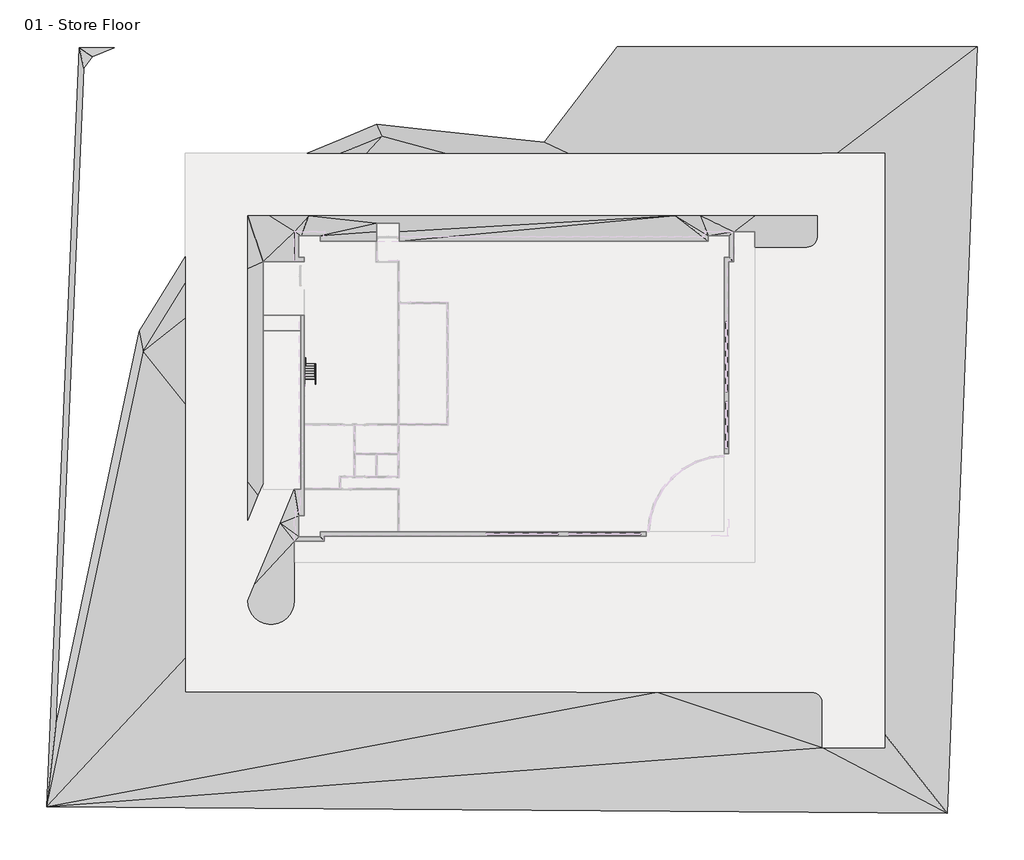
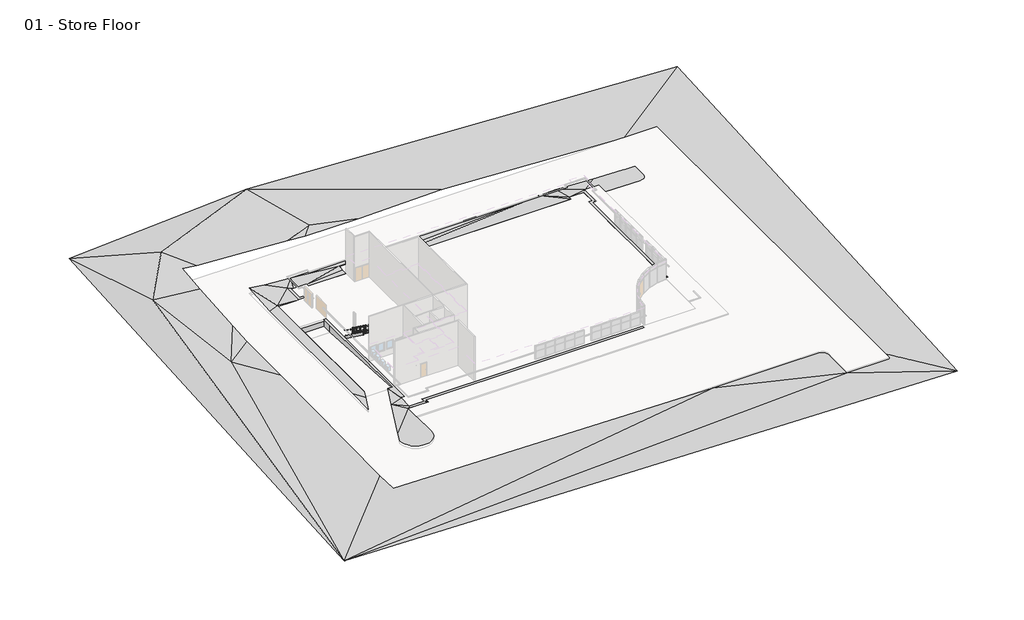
# One storey, part 4 of 4: 8 proxies, 2 members, 2 railings, 1 stair flight.
"""IFC4 building model written with IfcOpenShell, lengths in millimetres."""

from ifc_helpers import new_model, si_unit, point, frame, frame_2d, origin, place, context, project, spatial, polyline, circle_curve, ellipse_curve, trimmed, segment, composite_curve, outline, extrude, triangles, transform, mapped, element, save
from ifc_brep_helpers import plane_surface, cylinder_surface, advanced_brep
from components import m_support_metal_circular_m_support_metal_circular_cf76aa7a, stair_flight_50mm_tread_13mm_riser_1d24b435

model = new_model("IFC4")

# Units and contexts
model_context = context("Model", 3, world=origin())
ifc_project = project(units=[si_unit("LENGTHUNIT", "METRE", prefix="MILLI")], contexts=[model_context])

# Site, building, storey
site = spatial("IfcSite", under=ifc_project)
building = spatial("IfcBuilding", under=site)
storey = spatial("IfcBuildingStorey", under=building, Name="01 - Store Floor", Elevation=0.0)

# Proxies
placement = place(None, origin())
element("IfcBuildingElementProxy", 1, Name="Building Element Proxy", at=placement, inside=storey, context=model_context, shape_type="Tessellation", body=[
    triangles([(-43566.3082031, 32462.523175, 1000.0000076), (-46716.2229126, -40393.2088623, 1000.0000076), (39777.6557373, -41004.7343262, -500.0000038), (42663.8237549, 32601.6611938, -500.0000038), (-18392.8342987, 32565.4122437, 2500.0000191), (33780.5264465, -34706.930365, -384.9401665), (27780.5275635, -34706.930365, -383.6411179), (27780.5275635, -30406.9323669, -305.9673343), (27731.5840393, -30097.9140198, -300.3747432), (27589.5438721, -29819.144989, -295.30841), (27368.3131897, -29597.9143066, -291.2642528), (27089.5441589, -29455.8741394, -288.6381413), (26780.5281372, -29406.9306152, -287.6871456), (11915.4122314, -29406.9306152, -284.4687919), (-33419.4717407, -29406.9306152, 509.2660807), (-33419.4717407, -26152.3013672, 432.8553014), (-33419.4717407, -1684.9523849, 719.9349804), (-33419.4717407, 6518.3399185, 720.4169277), (-33419.4717407, 9885.0384888, 1000.0000076), (-33419.4717407, 18055.2002563, 1642.8014694), (-33419.4717407, 22343.0687622, 2044.0540123), (-31378.0544861, 22343.0687622, 1780.8529266), (-25462.4923096, 22343.0687622, 1430.5636974), (-18450.5005463, 22343.0687622, 1000.0000076), (-16016.6502686, 22343.0687622, 817.2966974), (-8441.5899673, 22343.0687622, 817.7947048), (3306.7528107, 22343.0687622, 1051.3779762), (29175.0005859, 22343.0687622, -220.2242939), (33780.5264465, 22343.0687622, -317.0081938), (33780.5264465, 15117.0051819, -319.6062183), (33780.5264465, -33407.95849, -361.4759374), (26280.5260986, 13343.0692749, -162.6334778), (26589.5444458, 13392.0116364, -169.1097904), (26868.3134766, 13534.0518036, -174.9169577), (27089.5441589, 13755.2836487, -179.4865371), (27231.5843262, 14034.0515167, -182.3712447), (27280.5278503, 14343.0687012, -183.2886669), (27280.5278503, 16343.0687164, -182.5695974), (21285.7193481, 16343.0687164, -56.5903049), (16043.3172455, 16343.0687164, 201.1098175), (13662.4242004, 16343.0687164, 153.7723545), (-21518.9074402, 16343.0687164, 151.4593325), (-25294.1537476, 16343.0687164, 434.8579408), (-27419.4728577, 16343.0687164, 722.9589964), (-27419.4728577, 11264.0287354, 301.1768745), (-27419.4728577, -9240.2545898, 299.9721152), (-27419.4728577, -12884.300766, 257.215895), (-26417.4247192, -10502.0496643, 229.83499), (-25919.4737183, -9318.2271561, 195.0878195), (-25919.4737183, 5316.5097885, 195.9477053), (-25919.4737183, 6816.5095093, 196.0358358), (-25919.4737183, 11955.0691132, 196.3377614), (-22896.9000732, 11955.0691132, -14.9999997), (-21990.4716797, 11955.0691132, -14.9999997), (-21990.4716797, 12384.0685089, -14.9999997), (-22490.4737183, 12384.0685089, -14.9999997), (-22490.4737183, 14414.0690186, -14.9999997), (-22283.239856, 14414.0690186, -14.9999997), (-20460.4720459, 14414.0690186, -14.9999997), (-20460.4720459, 13914.0681427, -14.9999997), (-15030.2232697, 13914.0681427, -14.9999997), (-15030.2232697, 14838.4070709, -14.9999997), (-15030.2232697, 15634.0689697, 73.2489038), (-12830.2226715, 15634.0689697, 73.3935443), (-12830.2226715, 14837.1024994, -14.9999997), (-12830.2226715, 13914.0681427, -14.9999997), (16821.5267212, 13914.0681427, -14.9999997), (16821.5267212, 14414.0690186, -14.9999997), (18851.5272308, 14414.0690186, -14.9999997), (18851.5272308, 12384.0685089, -14.9999997), (18351.5275177, 12384.0685089, -14.9999997), (18351.5275177, -6481.9310944, -14.9999997), (18780.5269135, -6481.9310944, -14.9999997), (18780.5269135, 11955.0691132, -14.9999997), (19231.5447327, 11955.0691132, -14.9999997), (19280.5277893, 11955.0691132, -16.029345), (19280.5277893, 14818.0687775, -14.9999997), (19280.5277893, 14843.0684143, -14.0659235), (19313.3990387, 14843.0684143, -15.6818087), (21280.5266418, 14843.0684143, -57.0204839), (21280.5266418, 13343.0692749, -57.559786), (-22919.473114, -16906.9308105, 31.9598247), (-22919.473114, -14906.7308075, -14.9999997), (-20031.4726501, -14906.7308075, -15.6252635), (-20031.4726501, -14872.1166412, -14.9999997), (-20031.4726501, -14406.9310822, -14.9999997), (10855.5269257, -14406.9310822, -14.9999997), (10855.5269257, -13977.9316864, -14.9999997), (-20460.4720459, -13977.9316864, -14.9999997), (-20460.4720459, -14477.7314117, -14.9999997), (-22490.4737183, -14477.7314117, -14.9999997), (-22490.4737183, -12447.7309021, -14.9999997), (-21990.4716797, -12447.7309021, -14.9999997), (-21990.4716797, 6816.5095093, -14.9999997), (-22319.4725281, 6816.5095093, -14.9999997), (-22319.4725281, 5316.5097885, -14.9999997), (-22319.4725281, -9923.4907928, -14.9999997), (-22915.2849976, -9923.4907928, -14.9999997), (-22919.473114, -9923.4907928, -14.7072021), (-24289.7755188, -13181.2233398, 80.9126756), (-26734.0263245, -18992.1430664, 147.701713), (-27419.4728577, -20621.7110413, 197.9609908), (-27370.3037659, -21089.5127197, 208.0829929), (-27224.9498474, -21536.8691345, 216.040901), (-26989.7618774, -21944.2279907, 221.4869712), (-26675.0159729, -22293.7880493, 224.1831366), (-26294.471759, -22570.2688477, 224.0115809), (-25864.7607788, -22761.5897278, 220.9798074), (-25404.6609558, -22859.386084, 215.2203116), (-24934.2826904, -22859.386084, 206.9848041), (-24474.1851929, -22761.5897278, 196.6332376), (-24044.4718872, -22570.2688477, 184.6180007), (-23663.9299988, -22293.7880493, 171.4642251), (-23349.1840942, -21944.2279907, 157.746803), (-23113.9961243, -21536.8691345, 144.0652526), (-22968.6398804, -21089.5127197, 131.0175116), (-22919.473114, -20621.7110413, 119.1738304), (-34204.7703186, 26133.4374023, 2500.0000191), (-40234.7441162, 17825.4724182, 2500.0000191), (-14506.8505646, 23989.4473389, 1000.0000076), (-37420.7554138, 3353.5319321, 1000.0000076), (-22894.4723145, 14843.0684143, -14.9999997)], [[2, 15, 16], [121, 2, 16], [102, 108, 109], [102, 107, 108], [109, 110, 102], [103, 106, 107], [106, 103, 104], [102, 103, 107], [101, 102, 117], [104, 105, 106], [111, 102, 110], [46, 47, 48], [112, 113, 102], [113, 114, 102], [116, 102, 115], [117, 102, 116], [102, 114, 115], [117, 82, 101], [83, 100, 101], [92, 99, 100], [100, 83, 91], [101, 82, 83], [92, 98, 99], [97, 92, 93], [92, 97, 98], [84, 91, 83], [92, 100, 91], [111, 112, 102], [14, 15, 2], [121, 18, 19], [18, 121, 17], [121, 19, 119], [45, 51, 52], [49, 50, 46], [51, 45, 50], [121, 16, 17], [119, 21, 118], [21, 119, 20], [5, 1, 118], [118, 1, 119], [21, 22, 118], [1, 2, 119], [44, 52, 43], [20, 119, 19], [52, 44, 45], [118, 22, 23], [119, 2, 121], [45, 46, 50], [122, 52, 53], [97, 94, 96], [93, 94, 97], [94, 95, 96], [46, 48, 49], [53, 54, 56], [42, 43, 122], [57, 122, 53], [122, 57, 58], [43, 52, 122], [55, 56, 54], [58, 42, 122], [59, 42, 58], [56, 57, 53], [5, 118, 23], [89, 90, 86], [91, 84, 90], [85, 90, 84], [86, 88, 89], [85, 86, 90], [88, 86, 87], [74, 71, 72], [72, 73, 74], [74, 75, 70], [76, 70, 75], [74, 70, 71], [10, 8, 9], [7, 8, 13], [6, 3, 31], [3, 6, 7], [7, 14, 2], [8, 10, 11], [80, 81, 32], [33, 37, 32], [11, 12, 13], [37, 33, 34], [13, 8, 11], [35, 37, 34], [31, 3, 30], [7, 13, 14], [2, 3, 7], [76, 77, 70], [62, 59, 61], [61, 59, 60], [63, 59, 62], [64, 65, 41], [66, 41, 65], [41, 42, 64], [5, 23, 24], [120, 5, 24], [24, 25, 120], [63, 64, 42], [26, 27, 5], [26, 120, 25], [5, 120, 26], [5, 27, 4], [42, 59, 63], [68, 40, 41], [68, 69, 78], [78, 69, 77], [78, 79, 39], [38, 32, 37], [69, 70, 77], [37, 35, 36], [68, 78, 40], [78, 39, 40], [39, 79, 80], [39, 80, 32], [39, 32, 38], [29, 4, 28], [4, 29, 30], [30, 3, 4], [4, 27, 28], [68, 41, 67], [67, 41, 66]], closed=False),
])
element("IfcBuildingElementProxy", 2, Name="Building Element Proxy", at=placement, inside=storey, context=model_context, shape_type="Tessellation", body=[
    triangles([(10855.5269257, -13977.9316864, -304.9595106), (10855.5269257, -13977.9316864, -14.9999997), (-20460.4720459, -13977.9316864, -304.9595106), (-20460.4720459, -13977.9316864, -14.9999997), (-20460.4720459, -14477.7314117, -304.9595106), (-20460.4720459, -14477.7314117, -14.9999997), (-22490.4737183, -14477.7314117, -304.9595106), (-22490.4737183, -14477.7314117, -14.9999997), (-22490.4737183, -12447.7309021, -304.9595106), (-22490.4737183, -12447.7309021, -14.9999997), (-21990.4716797, -12447.7309021, -304.9595106), (-21990.4716797, -12447.7309021, -14.9999997), (-21990.4716797, 6816.5095093, -304.9595106), (-21990.4716797, 6816.5095093, -14.9999997), (-22319.4725281, 6816.5095093, -304.9595106), (-22319.4725281, 6816.5095093, -14.9999997)], [[1, 4, 2], [1, 3, 4], [3, 6, 4], [3, 5, 6], [5, 8, 6], [5, 7, 8], [7, 10, 8], [7, 9, 10], [9, 12, 10], [9, 11, 12], [11, 14, 12], [11, 13, 14], [13, 16, 14], [13, 15, 16]], closed=False),
    triangles([(-25919.4737183, 6816.5095093, -304.9595106), (-25919.4737183, 6816.5095093, 196.0358358), (-25919.4737183, 11955.0691132, -304.9595106), (-25919.4737183, 11955.0691132, 196.3377614), (-22896.9000732, 11955.0691132, -304.9595106), (-22896.9000732, 11955.0691132, -14.9999997), (-21990.4716797, 11955.0691132, -304.9595106), (-21990.4716797, 11955.0691132, -14.9999997), (-21990.4716797, 12384.0685089, -304.9595106), (-21990.4716797, 12384.0685089, -14.9999997), (-22490.4737183, 12384.0685089, -304.9595106), (-22490.4737183, 12384.0685089, -14.9999997), (-22490.4737183, 14414.0690186, -304.9595106), (-22490.4737183, 14414.0690186, -14.9999997), (-22283.239856, 14414.0690186, -304.9595106), (-22283.239856, 14414.0690186, -14.9999997), (-20460.4720459, 14414.0690186, -304.9595106), (-20460.4720459, 14414.0690186, -14.9999997), (-20460.4720459, 13914.0681427, -304.9595106), (-20460.4720459, 13914.0681427, -14.9999997), (-15030.2232697, 13914.0681427, -304.9595106), (-15030.2232697, 13914.0681427, -14.9999997), (-15030.2232697, 14838.4070709, -304.9595106), (-15030.2232697, 14838.4070709, -14.9999997), (-15030.2232697, 15634.0689697, -304.9595106), (-15030.2232697, 15634.0689697, 73.2489038), (-12830.2226715, 15634.0689697, -304.9595106), (-12830.2226715, 15634.0689697, 73.3935443), (-12830.2226715, 14837.1024994, -304.9595106), (-12830.2226715, 14837.1024994, -14.9999997), (-12830.2226715, 13914.0681427, -304.9595106), (-12830.2226715, 13914.0681427, -14.9999997), (16821.5267212, 13914.0681427, -304.9595106), (16821.5267212, 13914.0681427, -14.9999997), (16821.5267212, 14414.0690186, -304.9595106), (16821.5267212, 14414.0690186, -14.9999997), (18851.5272308, 14414.0690186, -304.9595106), (18851.5272308, 14414.0690186, -14.9999997), (18851.5272308, 12384.0685089, -304.9595106), (18851.5272308, 12384.0685089, -14.9999997), (18351.5275177, 12384.0685089, -304.9595106), (18351.5275177, 12384.0685089, -14.9999997), (18351.5275177, -6481.9310944, -304.9595106), (18351.5275177, -6481.9310944, -14.9999997)], [[1, 4, 2], [1, 3, 4], [3, 6, 4], [3, 5, 6], [5, 8, 6], [5, 7, 8], [7, 10, 8], [7, 9, 10], [9, 12, 10], [9, 11, 12], [11, 14, 12], [11, 13, 14], [13, 16, 14], [13, 15, 16], [15, 18, 16], [15, 17, 18], [17, 20, 18], [17, 19, 20], [19, 22, 20], [19, 21, 22], [21, 24, 22], [21, 23, 24], [23, 26, 24], [23, 25, 26], [25, 28, 26], [25, 27, 28], [27, 30, 28], [27, 29, 30], [29, 32, 30], [29, 31, 32], [31, 34, 32], [31, 33, 34], [33, 36, 34], [33, 35, 36], [35, 38, 36], [35, 37, 38], [37, 40, 38], [37, 39, 40], [39, 42, 40], [39, 41, 42], [41, 44, 42], [41, 43, 44]], closed=False),
    triangles([(-15030.2232697, 13914.0681427, -304.9595106), (-20460.4720459, 13914.0681427, -304.9595106), (-20460.4720459, 14414.0690186, -304.9595106), (-22490.4737183, 14414.0690186, -304.9595106), (-22490.4737183, 12384.0685089, -304.9595106), (-21990.4716797, 12384.0685089, -304.9595106), (-21990.4716797, 11955.0691132, -304.9595106), (-25919.4737183, 11955.0691132, -304.9595106), (-25919.4737183, 6816.5095093, -304.9595106), (-21990.4716797, 6816.5095093, -304.9595106), (-21990.4716797, -12447.7309021, -304.9595106), (-22490.4737183, -12447.7309021, -304.9595106), (-22490.4737183, -14477.7314117, -304.9595106), (-20460.4720459, -14477.7314117, -304.9595106), (-20460.4720459, -13977.9316864, -304.9595106), (10855.5269257, -13977.9316864, -304.9595106), (18351.5275177, -13977.9316864, -304.9595106), (18351.5275177, -6481.9310944, -304.9595106), (18351.5275177, 12384.0685089, -304.9595106), (18851.5272308, 12384.0685089, -304.9595106), (18851.5272308, 14414.0690186, -304.9595106), (16821.5267212, 14414.0690186, -304.9595106), (16821.5267212, 13914.0681427, -304.9595106), (-12830.2226715, 13914.0681427, -304.9595106), (-12830.2226715, 15634.0689697, -304.9595106), (-15030.2232697, 15634.0689697, -304.9595106)], [[13, 11, 12], [11, 13, 15], [11, 15, 10], [15, 13, 14], [1, 7, 10], [7, 8, 9], [2, 4, 6], [6, 4, 5], [3, 4, 2], [2, 6, 7], [9, 10, 7], [10, 15, 24], [24, 16, 18], [24, 1, 10], [18, 16, 17], [23, 24, 18], [23, 18, 19], [21, 19, 20], [2, 7, 1], [26, 1, 25], [22, 23, 21], [23, 19, 21], [25, 1, 24], [15, 16, 24]], closed=False),
])
element("IfcBuildingElementProxy", 3, Name="Building Element Proxy", at=placement, inside=storey, context=model_context, shape_type="Tessellation", body=[
    triangles([(10855.5269257, -13977.9316864, -304.9595106), (10855.5269257, -13977.9316864, -14.9999997), (10855.5269257, -14406.9310822, -304.9595106), (10855.5269257, -14406.9310822, -14.9999997), (-20031.4726501, -14406.9310822, -304.9595106), (-20031.4726501, -14406.9310822, -14.9999997), (-20031.4726501, -14872.1166412, -304.9595106), (-20031.4726501, -14872.1166412, -14.9999997), (-20031.4726501, -14906.7308075, -304.9595106), (-20031.4726501, -14906.7308075, -15.6252635), (-22919.473114, -14906.7308075, -304.9595106), (-22919.473114, -14906.7308075, -14.9999997), (-22919.473114, -16906.9308105, -304.9595106), (-22919.473114, -16906.9308105, 31.9598247)], [[1, 4, 2], [1, 3, 4], [3, 6, 4], [3, 5, 6], [5, 8, 6], [5, 7, 8], [7, 10, 8], [7, 9, 10], [9, 12, 10], [9, 11, 12], [11, 14, 12], [11, 13, 14]], closed=False),
    triangles([(18351.5275177, -6481.9310944, -304.9595106), (18351.5275177, -6481.9310944, -14.9999997), (18780.5269135, -6481.9310944, -304.9595106), (18780.5269135, -6481.9310944, -14.9999997), (18780.5269135, 11955.0691132, -304.9595106), (18780.5269135, 11955.0691132, -14.9999997), (19231.5447327, 11955.0691132, -304.9595106), (19231.5447327, 11955.0691132, -14.9999997), (19280.5277893, 11955.0691132, -304.9595106), (19280.5277893, 11955.0691132, -16.029345), (19280.5277893, 14818.0687775, -304.9595106), (19280.5277893, 14818.0687775, -14.9999997), (19280.5277893, 14843.0684143, -304.9595106), (19280.5277893, 14843.0684143, -14.0659235), (19313.3990387, 14843.0684143, -304.9595106), (19313.3990387, 14843.0684143, -15.6818087), (21280.5266418, 14843.0684143, -304.9595106), (21280.5266418, 14843.0684143, -57.0204839), (21280.5266418, 13343.0692749, -304.9595106), (21280.5266418, 13343.0692749, -57.559786)], [[1, 4, 2], [1, 3, 4], [3, 6, 4], [3, 5, 6], [5, 8, 6], [5, 7, 8], [7, 10, 8], [7, 9, 10], [9, 12, 10], [9, 11, 12], [11, 14, 12], [11, 13, 14], [13, 16, 14], [13, 15, 16], [15, 18, 16], [15, 17, 18], [17, 20, 18], [17, 19, 20]], closed=False),
    triangles([(21280.5266418, 14843.0684143, -304.9595106), (19280.5277893, 14843.0684143, -304.9595106), (19280.5277893, 11955.0691132, -304.9595106), (18780.5269135, 11955.0691132, -304.9595106), (18780.5269135, -6481.9310944, -304.9595106), (18351.5275177, -6481.9310944, -304.9595106), (18351.5275177, -13977.9316864, -304.9595106), (10855.5269257, -13977.9316864, -304.9595106), (10855.5269257, -14406.9310822, -304.9595106), (-20031.4726501, -14406.9310822, -304.9595106), (-20031.4726501, -14906.7308075, -304.9595106), (-22919.473114, -14906.7308075, -304.9595106), (-22919.473114, -16906.9308105, -304.9595106), (21280.5266418, -16906.9308105, -304.9595106)], [[13, 11, 12], [11, 13, 9], [7, 8, 9], [10, 11, 9], [13, 14, 9], [7, 14, 5], [14, 7, 9], [5, 14, 1], [3, 4, 5], [1, 2, 3], [3, 5, 1], [5, 6, 7]], closed=False),
])
element("IfcBuildingElementProxy", 4, Name="Building Element Proxy", at=placement, inside=storey, context=model_context, shape_type="Tessellation", body=[
    triangles([(-25919.4737183, 5316.5097885, -1369.9595478), (-25919.4737183, 5316.5097885, -1370.3489136), (-22902.4788025, 5316.5097885, -1369.9595478), (-22902.4788025, 5316.5097885, -1370.3489136), (-22319.4725281, 5316.5097885, -1369.9595478), (-22319.4725281, 5316.5097885, -1370.3489136)], [[1, 4, 2], [1, 3, 4], [3, 6, 4], [3, 5, 6]], closed=False),
    triangles([(-25919.4737183, 6816.5095093, -1369.9595478), (-25919.4737183, 6816.5095093, -304.9595106), (-22901.2184143, 6816.5095093, -1369.9595478), (-22901.2184143, 6816.5095093, -304.9595106), (-22319.4725281, 6816.5095093, -1369.9595478), (-22319.4725281, 6816.5095093, -304.9595106)], [[1, 4, 2], [1, 3, 4], [3, 6, 4], [3, 5, 6]], closed=False),
    triangles([(-22319.4725281, 5316.5097885, -1369.9595478), (-22319.4725281, 5316.5097885, -14.9999997), (-22319.4725281, 6816.5095093, -1369.9595478), (-22319.4725281, 6816.5095093, -14.9999997)], [[1, 4, 2], [1, 3, 4]], closed=False),
    triangles([(-25919.4737183, 6816.5095093, -1369.9595478), (-25919.4737183, 6816.5095093, 196.0358358), (-25919.4737183, 5316.5097885, -1369.9595478), (-25919.4737183, 5316.5097885, 195.9477053)], [[1, 4, 2], [1, 3, 4]], closed=False),
    triangles([(-25919.4737183, 6816.5095093, -1369.9595478), (-25919.4737183, 5316.5097885, -1369.9595478), (-22319.4725281, 5316.5097885, -1369.9595478), (-22319.4725281, 6816.5095093, -1369.9595478)], [[1, 2, 3], [3, 4, 1]], closed=False),
])
element("IfcBuildingElementProxy", 5, Name="Building Element Proxy", at=placement, inside=storey, context=model_context, shape_type="Tessellation", body=[
    triangles([(-22319.4725281, 5316.5097885, -1370.3489136), (-22319.4725281, 5316.5097885, -14.9999997), (-22319.4725281, -9923.4907928, -455.3488775), (-22319.4725281, -9923.4907928, -14.9999997), (-22915.2849976, -9923.4907928, -455.3488775), (-22915.2849976, -9923.4907928, -14.9999997), (-22919.473114, -9923.4907928, -455.3488775), (-22919.473114, -9923.4907928, -14.7072021)], [[1, 4, 2], [1, 3, 4], [3, 6, 4], [3, 5, 6], [5, 8, 6], [5, 7, 8]], closed=False),
    triangles([(-25919.4737183, 5316.5097885, -1370.3489136), (-25919.4737183, 5316.5097885, 195.9477053), (-25919.4737183, -9318.2271561, -491.6884835), (-25919.4737183, -9318.2271561, 195.0878195)], [[1, 4, 2], [1, 3, 4]], closed=False),
    triangles([(-25919.4737183, 5316.5097885, -1370.3489136), (-25919.4737183, -9923.4907928, -455.3488775), (-22319.4725281, -9923.4907928, -455.3488775), (-22319.4725281, 5316.5097885, -1370.3489136)], [[1, 2, 3], [3, 4, 1]], closed=False),
])
m_support_metal_circular_m_support_metal_circular_shape = m_support_metal_circular_m_support_metal_circular_cf76aa7a(model_context)
element("IfcBuildingElementProxy", 6, Name="M_Support - Metal - Circular : M_Support - Metal - Circular", ObjectType="M_Support - Metal - Circular : M_Support - Metal - Circular", at=placement, inside=storey, context=model_context, shape_type="MappedRepresentation", body=[
    mapped(m_support_metal_circular_m_support_metal_circular_shape, transform((-21860.0727721, 1969.452704, 1196.3223087), x_axis=(0.0, 1.0, 0.0), y_axis=(-1.0, 0.0, 0.0), z_axis=(0.0, 0.0, 1.0))),
])
element("IfcBuildingElementProxy", 7, Name="M_Support - Metal - Circular : M_Support - Metal - Circular", ObjectType="M_Support - Metal - Circular : M_Support - Metal - Circular", at=placement, inside=storey, context=model_context, shape_type="MappedRepresentation", body=[
    mapped(m_support_metal_circular_m_support_metal_circular_shape, transform((-21860.0727721, 1003.3856992, 1908.1611543), x_axis=(0.0, 1.0, 0.0), y_axis=(-1.0, 0.0, 0.0), z_axis=(0.0, 0.0, 1.0))),
])
element("IfcBuildingElementProxy", 8, Name="M_Support - Metal - Circular : M_Support - Metal - Circular", ObjectType="M_Support - Metal - Circular : M_Support - Metal - Circular", at=placement, inside=storey, context=model_context, shape_type="MappedRepresentation", body=[
    mapped(m_support_metal_circular_m_support_metal_circular_shape, transform((-21860.0727721, 37.3186943, 2620.0), x_axis=(0.0, 1.0, 0.0), y_axis=(-1.0, 0.0, 0.0), z_axis=(0.0, 0.0, 1.0))),
])

# Members
element("IfcMember", 9, ObjectType="Stringer - 50mm Width", at=placement, inside=storey, context=model_context, shape_type="SweptSolid", body=[
    extrude(outline(polyline([(2162.3186943, 251.32694), (2162.3186943, 0.0), (1829.0953289, 0.0), (-2337.6813057, 3070.2564676), (-2337.6813057, 3567.1164137), (2162.3186943, 251.32694)])), frame((-20940.4727721, 0.0, 0.0), z_axis=(1.0, 0.0, 0.0), x_axis=(0.0, 1.0, 0.0)), (0.0, 0.0, 1.0), 50.0),
])
element("IfcMember", 10, ObjectType="Stringer - 50mm Width", at=placement, inside=storey, context=model_context, shape_type="SweptSolid", body=[
    extrude(outline(polyline([(2162.3186943, 251.32694), (2162.3186943, 0.0), (1829.0953289, 0.0), (-2337.6813057, 3070.2564676), (-2337.6813057, 3567.1164137), (2162.3186943, 251.32694)])), frame((-21990.4727721, 0.0, 0.0), z_axis=(1.0, 0.0, 0.0), x_axis=(0.0, 1.0, 0.0)), (0.0, 0.0, 1.0), 50.0),
])

# Railings
element("IfcRailing", 11, ObjectType="900mm Pipe", at=placement, inside=storey, context=model_context, shape_type="AdvancedBrep", body=[
    advanced_brep(
    [(-20985.8727721, 2162.3186943, 1059.367529), (-20945.8727721, 2162.3186943, 1059.367529), (-20985.8727721, -2337.6813057, 4375.1570027), (-20945.8727721, -2337.6813057, 4375.1570027)],
    [
        (0, 1, ellipse_curve(frame((-20965.8727721, 2162.3186943, 1059.367529), z_axis=(0.0, 1.0, 0.0), x_axis=(0.0, 0.0, -1.0)), 24.8429973, 20.0)),
        (1, 0, ellipse_curve(frame((-20965.8727721, 2162.3186943, 1059.367529), z_axis=(0.0, 1.0, 0.0), x_axis=(0.0, 0.0, -1.0)), 24.8429973, 20.0)),
        (2, 3, ellipse_curve(frame((-20965.8727721, -2337.6813057, 4375.1570027), z_axis=(0.0, -1.0, 0.0), x_axis=(0.0, 0.0, -1.0)), 24.8429973, 20.0)),
        (3, 2, ellipse_curve(frame((-20965.8727721, -2337.6813057, 4375.1570027), z_axis=(0.0, -1.0, 0.0), x_axis=(0.0, 0.0, -1.0)), 24.8429973, 20.0)),
        (0, 2),
        (3, 1),
    ],
    [
        plane_surface(frame((-20965.8727721, 2162.3186943, 1084.2105263), z_axis=(0.0, 1.0, 0.0), x_axis=(0.0, 0.0, -1.0))),
        plane_surface(frame((-20965.8727721, -2337.6813057, 4400.0), z_axis=(0.0, -1.0, 0.0), x_axis=(0.0, 0.0, -1.0))),
        cylinder_surface(frame((-20965.8727721, 2150.4547136, 1068.1094096), z_axis=(0.0, 0.8050558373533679, -0.5931990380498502), x_axis=(1.0, 0.0, 0.0)), 20.0),
    ],
    [
        (0, [[1, 2]]),
        (1, [[3, 4]]),
        (2, [[-1, 5, -4, 6]]),
        (2, [[-2, -6, -3, -5]]),
    ],
),
    advanced_brep(
    [(-20980.8727721, 2162.3186943, 865.5782783), (-20950.8727721, 2162.3186943, 865.5782783), (-20980.8727721, -2337.6813057, 4181.367752), (-20950.8727721, -2337.6813057, 4181.367752)],
    [
        (0, 1, ellipse_curve(frame((-20965.8727721, 2162.3186943, 865.5782783), z_axis=(0.0, 1.0, 0.0), x_axis=(0.0, 0.0, -1.0)), 18.632248, 15.0)),
        (1, 0, ellipse_curve(frame((-20965.8727721, 2162.3186943, 865.5782783), z_axis=(0.0, 1.0, 0.0), x_axis=(0.0, 0.0, -1.0)), 18.632248, 15.0)),
        (2, 3, ellipse_curve(frame((-20965.8727721, -2337.6813057, 4181.367752), z_axis=(0.0, -1.0, 0.0), x_axis=(0.0, 0.0, -1.0)), 18.632248, 15.0)),
        (3, 2, ellipse_curve(frame((-20965.8727721, -2337.6813057, 4181.367752), z_axis=(0.0, -1.0, 0.0), x_axis=(0.0, 0.0, -1.0)), 18.632248, 15.0)),
        (0, 2),
        (3, 1),
    ],
    [
        plane_surface(frame((-20965.8727721, 2162.3186943, 884.2105263), z_axis=(0.0, 1.0, 0.0), x_axis=(0.0, 0.0, -1.0))),
        plane_surface(frame((-20965.8727721, -2337.6813057, 4200.0), z_axis=(0.0, -1.0, 0.0), x_axis=(0.0, 0.0, -1.0))),
        cylinder_surface(frame((-20965.8727721, 2153.4207088, 872.1346888), z_axis=(0.0, 0.8050558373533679, -0.5931990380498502), x_axis=(1.0, 0.0, 0.0)), 15.0),
    ],
    [
        (0, [[1, 2]]),
        (1, [[3, 4]]),
        (2, [[-1, 5, -4, 6]]),
        (2, [[-2, -6, -3, -5]]),
    ],
),
    advanced_brep(
    [(-20980.8727721, 2162.3186943, 665.5782783), (-20950.8727721, 2162.3186943, 665.5782783), (-20980.8727721, -2337.6813057, 3981.367752), (-20950.8727721, -2337.6813057, 3981.367752)],
    [
        (0, 1, ellipse_curve(frame((-20965.8727721, 2162.3186943, 665.5782783), z_axis=(0.0, 1.0, 0.0), x_axis=(0.0, 0.0, -1.0)), 18.632248, 15.0)),
        (1, 0, ellipse_curve(frame((-20965.8727721, 2162.3186943, 665.5782783), z_axis=(0.0, 1.0, 0.0), x_axis=(0.0, 0.0, -1.0)), 18.632248, 15.0)),
        (2, 3, ellipse_curve(frame((-20965.8727721, -2337.6813057, 3981.367752), z_axis=(0.0, -1.0, 0.0), x_axis=(0.0, 0.0, -1.0)), 18.632248, 15.0)),
        (3, 2, ellipse_curve(frame((-20965.8727721, -2337.6813057, 3981.367752), z_axis=(0.0, -1.0, 0.0), x_axis=(0.0, 0.0, -1.0)), 18.632248, 15.0)),
        (0, 2),
        (3, 1),
    ],
    [
        plane_surface(frame((-20965.8727721, 2162.3186943, 684.2105263), z_axis=(0.0, 1.0, 0.0), x_axis=(0.0, 0.0, -1.0))),
        plane_surface(frame((-20965.8727721, -2337.6813057, 4000.0), z_axis=(0.0, -1.0, 0.0), x_axis=(0.0, 0.0, -1.0))),
        cylinder_surface(frame((-20965.8727721, 2153.4207088, 672.1346888), z_axis=(0.0, 0.8050558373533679, -0.5931990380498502), x_axis=(1.0, 0.0, 0.0)), 15.0),
    ],
    [
        (0, [[1, 2]]),
        (1, [[3, 4]]),
        (2, [[-1, 5, -4, 6]]),
        (2, [[-2, -6, -3, -5]]),
    ],
),
    advanced_brep(
    [(-20980.8727721, 2162.3186943, 465.5782783), (-20950.8727721, 2162.3186943, 465.5782783), (-20980.8727721, -2337.6813057, 3781.367752), (-20950.8727721, -2337.6813057, 3781.367752)],
    [
        (0, 1, ellipse_curve(frame((-20965.8727721, 2162.3186943, 465.5782783), z_axis=(0.0, 1.0, 0.0), x_axis=(0.0, 0.0, -1.0)), 18.632248, 15.0)),
        (1, 0, ellipse_curve(frame((-20965.8727721, 2162.3186943, 465.5782783), z_axis=(0.0, 1.0, 0.0), x_axis=(0.0, 0.0, -1.0)), 18.632248, 15.0)),
        (2, 3, ellipse_curve(frame((-20965.8727721, -2337.6813057, 3781.367752), z_axis=(0.0, -1.0, 0.0), x_axis=(0.0, 0.0, -1.0)), 18.632248, 15.0)),
        (3, 2, ellipse_curve(frame((-20965.8727721, -2337.6813057, 3781.367752), z_axis=(0.0, -1.0, 0.0), x_axis=(0.0, 0.0, -1.0)), 18.632248, 15.0)),
        (0, 2),
        (3, 1),
    ],
    [
        plane_surface(frame((-20965.8727721, 2162.3186943, 484.2105263), z_axis=(0.0, 1.0, 0.0), x_axis=(0.0, 0.0, -1.0))),
        plane_surface(frame((-20965.8727721, -2337.6813057, 3800.0), z_axis=(0.0, -1.0, 0.0), x_axis=(0.0, 0.0, -1.0))),
        cylinder_surface(frame((-20965.8727721, 2153.4207088, 472.1346888), z_axis=(0.0, 0.8050558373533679, -0.5931990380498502), x_axis=(1.0, 0.0, 0.0)), 15.0),
    ],
    [
        (0, [[1, 2]]),
        (1, [[3, 4]]),
        (2, [[-1, 5, -4, 6]]),
        (2, [[-2, -6, -3, -5]]),
    ],
),
    advanced_brep(
    [(-20980.8727721, 2162.3186943, 265.5782783), (-20950.8727721, 2162.3186943, 265.5782783), (-20980.8727721, -2337.6813057, 3581.367752), (-20950.8727721, -2337.6813057, 3581.367752)],
    [
        (0, 1, ellipse_curve(frame((-20965.8727721, 2162.3186943, 265.5782783), z_axis=(0.0, 1.0, 0.0), x_axis=(0.0, 0.0, -1.0)), 18.632248, 15.0)),
        (1, 0, ellipse_curve(frame((-20965.8727721, 2162.3186943, 265.5782783), z_axis=(0.0, 1.0, 0.0), x_axis=(0.0, 0.0, -1.0)), 18.632248, 15.0)),
        (2, 3, ellipse_curve(frame((-20965.8727721, -2337.6813057, 3581.367752), z_axis=(0.0, -1.0, 0.0), x_axis=(0.0, 0.0, -1.0)), 18.632248, 15.0)),
        (3, 2, ellipse_curve(frame((-20965.8727721, -2337.6813057, 3581.367752), z_axis=(0.0, -1.0, 0.0), x_axis=(0.0, 0.0, -1.0)), 18.632248, 15.0)),
        (0, 2),
        (3, 1),
    ],
    [
        plane_surface(frame((-20965.8727721, 2162.3186943, 284.2105263), z_axis=(0.0, 1.0, 0.0), x_axis=(0.0, 0.0, -1.0))),
        plane_surface(frame((-20965.8727721, -2337.6813057, 3600.0), z_axis=(0.0, -1.0, 0.0), x_axis=(0.0, 0.0, -1.0))),
        cylinder_surface(frame((-20965.8727721, 2153.4207088, 272.1346888), z_axis=(0.0, 0.8050558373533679, -0.5931990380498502), x_axis=(1.0, 0.0, 0.0)), 15.0),
    ],
    [
        (0, [[1, 2]]),
        (1, [[3, 4]]),
        (2, [[-1, 5, -4, 6]]),
        (2, [[-2, -6, -3, -5]]),
    ],
),
    advanced_brep(
    [(-20953.3727721, -1837.6813057, 3981.8929528), (-20978.3727721, -1837.6813057, 3981.8929528), (-20978.3727721, -1837.6813057, 3131.5789474), (-20953.3727721, -1837.6813057, 3131.5789474)],
    [
        (0, 1, ellipse_curve(frame((-20965.8727721, -1837.6813057, 3981.8929528), z_axis=(0.0, -0.5931990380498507, -0.8050558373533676), x_axis=(0.0, -0.8050558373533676, 0.5931990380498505)), 15.5268733, 12.5)),
        (1, 2),
        (2, 3, circle_curve(frame((-20965.8727721, -1837.6813057, 3131.5789474), z_axis=(0.0, 0.0, 1.0), x_axis=(-1.0, 0.0, 0.0)), 12.5)),
        (3, 0),
        (3, 2, circle_curve(frame((-20965.8727721, -1837.6813057, 3131.5789474), z_axis=(0.0, 0.0, 1.0), x_axis=(-1.0, 0.0, 0.0)), 12.5)),
        (1, 0, ellipse_curve(frame((-20965.8727721, -1837.6813057, 3981.8929528), z_axis=(0.0, -0.5931990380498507, -0.8050558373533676), x_axis=(0.0, -0.8050558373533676, 0.5931990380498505)), 15.5268733, 12.5)),
    ],
    [
        cylinder_surface(frame((-20965.8727721, -1837.6813057, 3031.5789474), z_axis=(0.0, 0.0, 1.0), x_axis=(-1.0, 0.0, 0.0)), 12.5),
        plane_surface(frame((-20990.8727721, -1862.6813057, 4000.3140054), z_axis=(0.0, 0.5931990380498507, 0.8050558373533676), x_axis=(1.0, 0.0, 0.0))),
        plane_surface(frame((-20990.8727721, -1812.6813057, 3131.5789474), z_axis=(0.0, 0.0, -1.0), x_axis=(1.0, 0.0, 0.0))),
    ],
    [
        (0, [[1, 2, 3, 4]]),
        (0, [[5, -2, 6, -4]]),
        (1, [[-6, -1]]),
        (2, [[-5, -3]]),
    ],
),
    advanced_brep(
    [(-20953.3727721, -837.6813057, 3245.0508475), (-20978.3727721, -837.6813057, 3245.0508475), (-20978.3727721, -837.6813057, 2394.7368421), (-20953.3727721, -837.6813057, 2394.7368421)],
    [
        (0, 1, ellipse_curve(frame((-20965.8727721, -837.6813057, 3245.0508475), z_axis=(0.0, -0.5931990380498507, -0.8050558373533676), x_axis=(0.0, -0.8050558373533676, 0.5931990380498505)), 15.5268733, 12.5)),
        (1, 2),
        (2, 3, circle_curve(frame((-20965.8727721, -837.6813057, 2394.7368421), z_axis=(0.0, 0.0, 1.0), x_axis=(-1.0, 0.0, 0.0)), 12.5)),
        (3, 0),
        (3, 2, circle_curve(frame((-20965.8727721, -837.6813057, 2394.7368421), z_axis=(0.0, 0.0, 1.0), x_axis=(-1.0, 0.0, 0.0)), 12.5)),
        (1, 0, ellipse_curve(frame((-20965.8727721, -837.6813057, 3245.0508475), z_axis=(0.0, -0.5931990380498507, -0.8050558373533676), x_axis=(0.0, -0.8050558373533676, 0.5931990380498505)), 15.5268733, 12.5)),
    ],
    [
        cylinder_surface(frame((-20965.8727721, -837.6813057, 2294.7368421), z_axis=(0.0, 0.0, 1.0), x_axis=(-1.0, 0.0, 0.0)), 12.5),
        plane_surface(frame((-20990.8727721, -862.6813057, 3263.4719001), z_axis=(0.0, 0.5931990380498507, 0.8050558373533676), x_axis=(1.0, 0.0, 0.0))),
        plane_surface(frame((-20990.8727721, -812.6813057, 2394.7368421), z_axis=(0.0, 0.0, -1.0), x_axis=(1.0, 0.0, 0.0))),
    ],
    [
        (0, [[1, 2, 3, 4]]),
        (0, [[5, -2, 6, -4]]),
        (1, [[-6, -1]]),
        (2, [[-5, -3]]),
    ],
),
    advanced_brep(
    [(-20953.3727721, 162.3186943, 2508.2087422), (-20978.3727721, 162.3186943, 2508.2087422), (-20978.3727721, 162.3186943, 1657.8947368), (-20953.3727721, 162.3186943, 1657.8947368)],
    [
        (0, 1, ellipse_curve(frame((-20965.8727721, 162.3186943, 2508.2087422), z_axis=(0.0, -0.5931990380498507, -0.8050558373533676), x_axis=(0.0, -0.8050558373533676, 0.5931990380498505)), 15.5268733, 12.5)),
        (1, 2),
        (2, 3, circle_curve(frame((-20965.8727721, 162.3186943, 1657.8947368), z_axis=(0.0, 0.0, 1.0), x_axis=(-1.0, 0.0, 0.0)), 12.5)),
        (3, 0),
        (3, 2, circle_curve(frame((-20965.8727721, 162.3186943, 1657.8947368), z_axis=(0.0, 0.0, 1.0), x_axis=(-1.0, 0.0, 0.0)), 12.5)),
        (1, 0, ellipse_curve(frame((-20965.8727721, 162.3186943, 2508.2087422), z_axis=(0.0, -0.5931990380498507, -0.8050558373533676), x_axis=(0.0, -0.8050558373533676, 0.5931990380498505)), 15.5268733, 12.5)),
    ],
    [
        cylinder_surface(frame((-20965.8727721, 162.3186943, 1557.8947368), z_axis=(0.0, 0.0, 1.0), x_axis=(-1.0, 0.0, 0.0)), 12.5),
        plane_surface(frame((-20990.8727721, 137.3186943, 2526.6297949), z_axis=(0.0, 0.5931990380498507, 0.8050558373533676), x_axis=(1.0, 0.0, 0.0))),
        plane_surface(frame((-20990.8727721, 187.3186943, 1657.8947368), z_axis=(0.0, 0.0, -1.0), x_axis=(1.0, 0.0, 0.0))),
    ],
    [
        (0, [[1, 2, 3, 4]]),
        (0, [[5, -2, 6, -4]]),
        (1, [[-6, -1]]),
        (2, [[-5, -3]]),
    ],
),
    advanced_brep(
    [(-20953.3727721, 1162.3186943, 1771.366637), (-20978.3727721, 1162.3186943, 1771.366637), (-20978.3727721, 1162.3186943, 921.0526316), (-20953.3727721, 1162.3186943, 921.0526316)],
    [
        (0, 1, ellipse_curve(frame((-20965.8727721, 1162.3186943, 1771.366637), z_axis=(0.0, -0.5931990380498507, -0.8050558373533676), x_axis=(0.0, -0.8050558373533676, 0.5931990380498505)), 15.5268733, 12.5)),
        (1, 2),
        (2, 3, circle_curve(frame((-20965.8727721, 1162.3186943, 921.0526316), z_axis=(0.0, 0.0, 1.0), x_axis=(-1.0, 0.0, 0.0)), 12.5)),
        (3, 0),
        (3, 2, circle_curve(frame((-20965.8727721, 1162.3186943, 921.0526316), z_axis=(0.0, 0.0, 1.0), x_axis=(-1.0, 0.0, 0.0)), 12.5)),
        (1, 0, ellipse_curve(frame((-20965.8727721, 1162.3186943, 1771.366637), z_axis=(0.0, -0.5931990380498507, -0.8050558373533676), x_axis=(0.0, -0.8050558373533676, 0.5931990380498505)), 15.5268733, 12.5)),
    ],
    [
        cylinder_surface(frame((-20965.8727721, 1162.3186943, 821.0526316), z_axis=(0.0, 0.0, 1.0), x_axis=(-1.0, 0.0, 0.0)), 12.5),
        plane_surface(frame((-20990.8727721, 1137.3186943, 1789.7876896), z_axis=(0.0, 0.5931990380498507, 0.8050558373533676), x_axis=(1.0, 0.0, 0.0))),
        plane_surface(frame((-20990.8727721, 1187.3186943, 921.0526316), z_axis=(0.0, 0.0, -1.0), x_axis=(1.0, 0.0, 0.0))),
    ],
    [
        (0, [[1, 2, 3, 4]]),
        (0, [[5, -2, 6, -4]]),
        (1, [[-6, -1]]),
        (2, [[-5, -3]]),
    ],
),
    advanced_brep(
    [(-20953.3727721, -2325.1813057, 4341.1034791), (-20978.3727721, -2325.1813057, 4341.1034791), (-20978.3727721, -2325.1813057, 3315.7894737), (-20953.3727721, -2325.1813057, 3315.7894737)],
    [
        (0, 1, ellipse_curve(frame((-20965.8727721, -2325.1813057, 4341.1034791), z_axis=(0.0, -0.5931990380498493, -0.8050558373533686), x_axis=(0.0, -0.8050558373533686, 0.5931990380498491)), 15.5268733, 12.5)),
        (1, 2),
        (2, 3, circle_curve(frame((-20965.8727721, -2325.1813057, 3315.7894737), z_axis=(0.0, 0.0, 1.0), x_axis=(-1.0, 0.0, 0.0)), 12.5)),
        (3, 0),
        (3, 2, circle_curve(frame((-20965.8727721, -2325.1813057, 3315.7894737), z_axis=(0.0, 0.0, 1.0), x_axis=(-1.0, 0.0, 0.0)), 12.5)),
        (1, 0, ellipse_curve(frame((-20965.8727721, -2325.1813057, 4341.1034791), z_axis=(0.0, -0.5931990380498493, -0.8050558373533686), x_axis=(0.0, -0.8050558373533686, 0.5931990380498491)), 15.5268733, 12.5)),
    ],
    [
        cylinder_surface(frame((-20965.8727721, -2325.1813057, 3215.7894737), z_axis=(0.0, 0.0, 1.0), x_axis=(-1.0, 0.0, 0.0)), 12.5),
        plane_surface(frame((-20990.8727721, -2350.1813057, 4359.5245317), z_axis=(0.0, 0.5931990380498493, 0.8050558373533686), x_axis=(1.0, 0.0, 0.0))),
        plane_surface(frame((-20990.8727721, -2300.1813057, 3315.7894737), z_axis=(0.0, 0.0, -1.0), x_axis=(1.0, 0.0, 0.0))),
    ],
    [
        (0, [[1, 2, 3, 4]]),
        (0, [[5, -2, 6, -4]]),
        (1, [[-6, -1]]),
        (2, [[-5, -3]]),
    ],
),
    advanced_brep(
    [(-20953.3727721, 2149.8186943, 1043.735058), (-20978.3727721, 2149.8186943, 1043.735058), (-20978.3727721, 2149.8186943, 184.2105263), (-20953.3727721, 2149.8186943, 184.2105263)],
    [
        (0, 1, ellipse_curve(frame((-20965.8727721, 2149.8186943, 1043.735058), z_axis=(0.0, -0.5931990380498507, -0.8050558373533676), x_axis=(0.0, -0.8050558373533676, 0.5931990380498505)), 15.5268733, 12.5)),
        (1, 2),
        (2, 3, circle_curve(frame((-20965.8727721, 2149.8186943, 184.2105263), z_axis=(0.0, 0.0, 1.0), x_axis=(-1.0, 0.0, 0.0)), 12.5)),
        (3, 0),
        (3, 2, circle_curve(frame((-20965.8727721, 2149.8186943, 184.2105263), z_axis=(0.0, 0.0, 1.0), x_axis=(-1.0, 0.0, 0.0)), 12.5)),
        (1, 0, ellipse_curve(frame((-20965.8727721, 2149.8186943, 1043.735058), z_axis=(0.0, -0.5931990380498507, -0.8050558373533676), x_axis=(0.0, -0.8050558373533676, 0.5931990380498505)), 15.5268733, 12.5)),
    ],
    [
        cylinder_surface(frame((-20965.8727721, 2149.8186943, 84.2105263), z_axis=(0.0, 0.0, 1.0), x_axis=(-1.0, 0.0, 0.0)), 12.5),
        plane_surface(frame((-20990.8727721, 2124.8186943, 1062.1561106), z_axis=(0.0, 0.5931990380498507, 0.8050558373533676), x_axis=(1.0, 0.0, 0.0))),
        plane_surface(frame((-20990.8727721, 2174.8186943, 184.2105263), z_axis=(0.0, 0.0, -1.0), x_axis=(1.0, 0.0, 0.0))),
    ],
    [
        (0, [[1, 2, 3, 4]]),
        (0, [[5, -2, 6, -4]]),
        (1, [[-6, -1]]),
        (2, [[-5, -3]]),
    ],
),
])
element("IfcRailing", 12, ObjectType="900mm Pipe Wall", at=placement, inside=storey, context=model_context, shape_type="SolidModel", body=[
    advanced_brep(
    [(-21875.0727721, 2712.6320954, 885.0), (-21845.0727721, 2712.6320954, 885.0), (-21875.0727721, 2407.3892149, 885.0), (-21845.0727721, 2407.3892149, 885.0), (-21875.0727721, 2153.4207088, 1072.1346888), (-21845.0727721, 2153.4207088, 1072.1346888), (-21875.0727721, -2342.6107851, 4385.0), (-21845.0727721, -2342.6107851, 4385.0), (-21875.0727721, -2637.9947068, 4385.0), (-21845.0727721, -2637.9947068, 4385.0)],
    [
        (0, 1, circle_curve(frame((-21860.0727721, 2712.6320954, 885.0), z_axis=(0.0, 1.0, 0.0), x_axis=(1.0, 0.0, 0.0)), 15.0)),
        (1, 0, circle_curve(frame((-21860.0727721, 2712.6320954, 885.0), z_axis=(0.0, 1.0, 0.0), x_axis=(1.0, 0.0, 0.0)), 15.0)),
        (0, 2),
        (2, 3, ellipse_curve(frame((-21860.0727721, 2407.3892149, 885.0), z_axis=(0.0, 0.9500146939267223, -0.3122051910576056), x_axis=(0.0, 0.3122051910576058, 0.9500146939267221)), 15.7892295, 15.0)),
        (3, 1),
        (3, 2, ellipse_curve(frame((-21860.0727721, 2407.3892149, 885.0), z_axis=(0.0, 0.9500146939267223, -0.3122051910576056), x_axis=(0.0, 0.3122051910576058, 0.9500146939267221)), 15.7892295, 15.0)),
        (2, 4),
        (4, 5, circle_curve(frame((-21860.0727721, 2153.4207088, 1072.1346888), z_axis=(0.0, 0.8050558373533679, -0.5931990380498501), x_axis=(1.0, 0.0, 0.0)), 15.0)),
        (5, 3),
        (5, 4, circle_curve(frame((-21860.0727721, 2153.4207088, 1072.1346888), z_axis=(0.0, 0.8050558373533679, -0.5931990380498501), x_axis=(1.0, 0.0, 0.0)), 15.0)),
        (4, 6),
        (6, 7, ellipse_curve(frame((-21860.0727721, -2342.6107851, 4385.0), z_axis=(0.0, 0.9500146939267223, -0.3122051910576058), x_axis=(0.0, -0.3122051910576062, -0.9500146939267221)), 15.7892295, 15.0)),
        (7, 5),
        (7, 6, ellipse_curve(frame((-21860.0727721, -2342.6107851, 4385.0), z_axis=(0.0, 0.9500146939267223, -0.3122051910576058), x_axis=(0.0, -0.3122051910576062, -0.9500146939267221)), 15.7892295, 15.0)),
        (8, 9, circle_curve(frame((-21860.0727721, -2637.9947068, 4385.0), z_axis=(0.0, -1.0, 0.0), x_axis=(1.0, 0.0, 0.0)), 15.0)),
        (9, 8, circle_curve(frame((-21860.0727721, -2637.9947068, 4385.0), z_axis=(0.0, -1.0, 0.0), x_axis=(1.0, 0.0, 0.0)), 15.0)),
        (6, 8),
        (9, 7),
    ],
    [
        plane_surface(frame((-21860.0727721, 2712.6320954, 900.0), z_axis=(0.0, 1.0, 0.0), x_axis=(0.0, 0.0, -1.0))),
        cylinder_surface(frame((-21860.0727721, 2712.6320954, 885.0), z_axis=(0.0, 1.0, 0.0), x_axis=(1.0, 0.0, 0.0)), 15.0),
        cylinder_surface(frame((-21860.0727721, 2403.4207088, 887.9241624), z_axis=(0.0, 0.8050558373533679, -0.5931990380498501), x_axis=(1.0, 0.0, 0.0)), 15.0),
        cylinder_surface(frame((-21860.0727721, 2153.4207088, 1072.1346888), z_axis=(0.0, 0.8050558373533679, -0.5931990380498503), x_axis=(1.0, 0.0, 0.0)), 15.0),
        plane_surface(frame((-21860.0727721, -2637.9947068, 4400.0), z_axis=(0.0, -1.0, 0.0), x_axis=(0.0, 0.0, -1.0))),
        cylinder_surface(frame((-21860.0727721, -2337.6813057, 4385.0), z_axis=(0.0, 1.0, 0.0), x_axis=(1.0, 0.0, 0.0)), 15.0),
    ],
    [
        (0, [[1, 2]]),
        (1, [[-1, 3, 4, 5]]),
        (1, [[-2, -5, 6, -3]]),
        (2, [[-4, 7, 8, 9]]),
        (2, [[-6, -9, 10, -7]]),
        (3, [[-8, 11, 12, 13]]),
        (3, [[-10, -13, 14, -11]]),
        (4, [[15, 16]]),
        (5, [[-12, 17, -16, 18]]),
        (5, [[-14, -18, -15, -17]]),
    ],
),
    advanced_brep(
    [(-21927.5727721, -2325.1813057, 3490.7894737), (-21927.5727721, -2325.1813057, 3315.7894737), (-21902.5727721, -2325.1813057, 3315.7894737), (-21902.5727721, -2325.1813057, 3490.7894737)],
    [
        (0, 1),
        (1, 2, circle_curve(frame((-21915.0727721, -2325.1813057, 3315.7894737), z_axis=(0.0, 0.0, 1.0), x_axis=(1.0, 0.0, 0.0)), 12.5)),
        (2, 3),
        (3, 0, ellipse_curve(frame((-21915.0727721, -2325.1813057, 3490.7894737), z_axis=(0.0, -0.5931990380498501, -0.8050558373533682), x_axis=(0.0, -0.8050558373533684, 0.5931990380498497)), 15.5268733, 12.5)),
        (0, 3, ellipse_curve(frame((-21915.0727721, -2325.1813057, 3490.7894737), z_axis=(0.0, -0.5931990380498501, -0.8050558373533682), x_axis=(0.0, -0.8050558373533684, 0.5931990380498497)), 15.5268733, 12.5)),
        (2, 1, circle_curve(frame((-21915.0727721, -2325.1813057, 3315.7894737), z_axis=(0.0, 0.0, 1.0), x_axis=(1.0, 0.0, 0.0)), 12.5)),
    ],
    [
        cylinder_surface(frame((-21915.0727721, -2325.1813057, 3215.7894737), z_axis=(0.0, 0.0, 1.0), x_axis=(1.0, 0.0, 0.0)), 12.5),
        plane_surface(frame((-21890.0727721, -2350.1813057, 3509.2105263), z_axis=(0.0, 0.5931990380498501, 0.8050558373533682), x_axis=(-1.0, 0.0, 0.0))),
        plane_surface(frame((-21890.0727721, -2300.1813057, 3315.7894737), z_axis=(0.0, 0.0, -1.0), x_axis=(-1.0, 0.0, 0.0))),
    ],
    [
        (0, [[1, 2, 3, 4]]),
        (0, [[-1, 5, -3, 6]]),
        (1, [[-4, -5]]),
        (2, [[-2, -6]]),
    ],
),
    extrude(outline(composite_curve([segment(trimmed(circle_curve(frame_2d((-21915.0727721, 2149.8186943)), 12.5), [point((-21927.5727721, 2149.8186943))], [point((-21902.5727721, 2149.8186943))], False, "CARTESIAN"), True, "CONTINUOUS"), segment(trimmed(circle_curve(frame_2d((-21915.0727721, 2149.8186943)), 12.5), [point((-21902.5727721, 2149.8186943))], [point((-21927.5727721, 2149.8186943))], False, "CARTESIAN"), True, "CONTINUOUS")], self_intersect=False)), frame((0.0, 0.0, 84.2105263), z_axis=(0.0, 0.0, 1.0), x_axis=(1.0, 0.0, 0.0)), (0.0, 0.0, 1.0), 209.2105263),
])

# Stair flight
stair_flight_50mm_tread_13mm_riser_shape = stair_flight_50mm_tread_13mm_riser_1d24b435(model_context)
element("IfcStairFlight", 13, ObjectType="50mm Tread 13mm Riser", at=placement, inside=storey, context=model_context, shape_type="MappedRepresentation", body=[
    mapped(stair_flight_50mm_tread_13mm_riser_shape, transform((0.0, 0.0, 0.0), x_axis=(1.0, 0.0, 0.0), y_axis=(0.0, 1.0, 0.0), z_axis=(0.0, 0.0, 1.0))),
])

save(model, "model.ifc")
